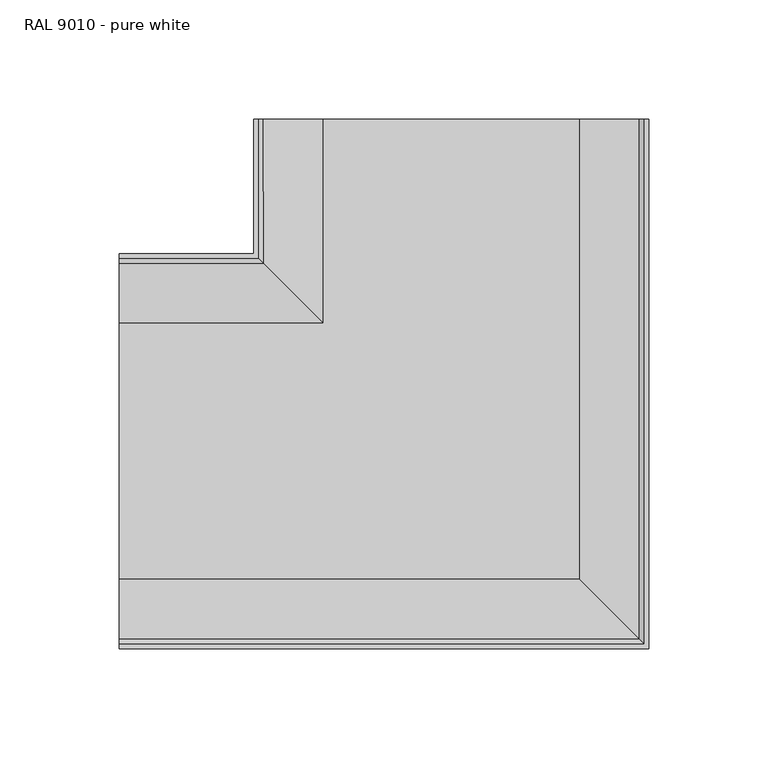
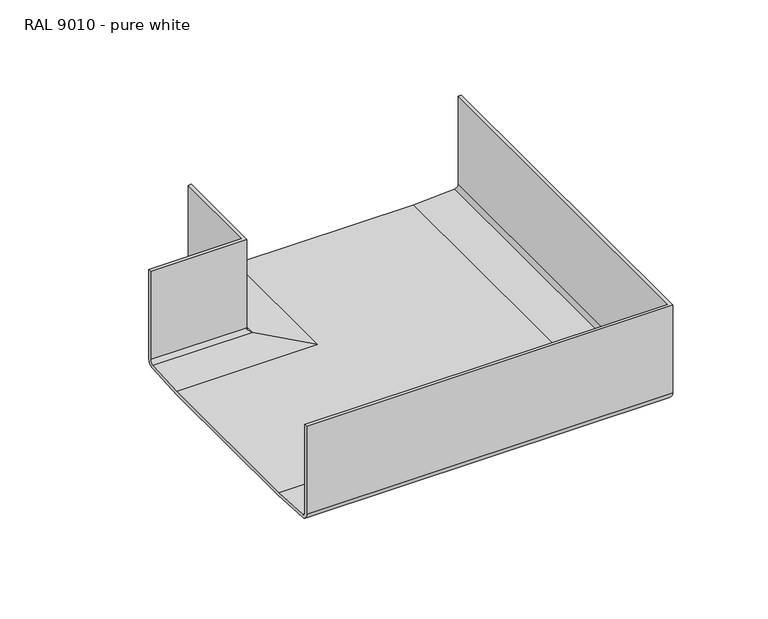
"""IFC4 building model written with IfcOpenShell, lengths in millimetres: cable carrier fitting geometry, Electrical_Installations_Hager_GBD-Flat-Corner-Vertical-Inside-And-Outside-Bend-Flat : RAL 9010 - pure white."""

from ifc_helpers import new_model, si_unit, frame, origin, place, context, project, spatial, polyline, circle_curve, ellipse_curve, source, transform, mapped, element, save
from ifc_brep_helpers import plane_surface, cylinder_surface, revolved_surface, advanced_brep


def ral_9010_pure_white_de79a6d9(model_context):
    return source(origin(), model_context, "Body", "AdvancedBrep", [
        advanced_brep(
        [(-139.5, 52.8133024, -34.957916), (-139.5, -52.8629789, -34.957916), (-139.5, -78.9370768, -33.406396), (-139.5, -83.0248383, -29.0681648), (-139.5, -83.0248383, 27.521231), (-139.5, -81.0727353, 27.521231), (-139.5, -81.0727353, -29.0681648), (-139.5, -78.9329395, -31.4049977), (-139.5, -53.8540421, -32.926666), (-139.5, 53.8043655, -32.926666), (-139.5, 78.819149, -31.4097682), (-139.5, 81.0139434, -29.0681648), (-139.5, 81.0139434, 27.6254199), (-139.5, 82.9751617, 27.6254199), (-139.5, 82.9751617, -29.0681648), (-139.5, 79.011084, -33.3972636), (-52.8133024, 52.8133024, -34.957916), (-52.8133024, 139.5, -34.957916), (52.8629789, 139.5, -34.957916), (52.8629789, -52.8629789, -34.957916), (78.9370768, -78.9370768, -33.406396), (83.0248383, -83.0248383, -29.0681648), (83.0248383, -83.0248383, 27.521231), (83.0248383, 139.5, 27.521231), (81.0727353, 139.5, 27.521231), (81.0727353, -81.0727353, 27.521231), (81.0727353, -81.0727353, -29.0681648), (78.9329395, -78.9329395, -31.4049977), (53.8540421, -53.8540421, -32.926666), (53.8540421, 139.5, -32.926666), (-53.8043655, 139.5, -32.926666), (-53.8043655, 53.8043655, -32.926666), (-78.819149, 78.819149, -31.4097682), (-81.0139434, 81.0139434, -29.0681648), (-81.0139434, 81.0139434, 27.6254199), (-81.0139434, 139.5, 27.6254199), (-82.9751617, 139.5, 27.6254199), (-82.9751617, 82.9751617, 27.6254199), (-82.9751617, 82.9751617, -29.0681648), (-79.011084, 79.011084, -33.3972636), (-78.8874003, 139.5, -33.406396), (-82.9751617, 139.5, -29.0681648), (-81.0139434, 139.5, -29.0681648), (-78.8741476, 139.5, -31.4049977), (78.8688255, 139.5, -31.4097682), (81.0727353, 139.5, -29.0681648), (83.0248383, 139.5, -29.0681648), (79.0607605, 139.5, -33.3972636)],
        [
            (0, 1),
            (1, 2, circle_curve(frame((-139.5, -48.5707654, 257.0450878), z_axis=(-1.0, 0.0, 0.0), x_axis=(0.0, 0.0, 1.0)), 292.0345481)),
            (2, 3, circle_curve(frame((-139.5, -78.6789336, -29.0681648), z_axis=(-1.0, 0.0, 0.0), x_axis=(0.0, 0.0, 1.0)), 4.3459047)),
            (3, 4),
            (4, 5),
            (5, 6),
            (6, 7, circle_curve(frame((-139.5, -78.7268306, -29.0681648), z_axis=(1.0, 0.0, 0.0), x_axis=(0.0, 0.0, 1.0)), 2.3459047)),
            (7, 8, circle_curve(frame((-139.5, -49.3389631, 248.5451055), z_axis=(1.0, 0.0, 0.0), x_axis=(0.0, 0.0, 1.0)), 281.5079822)),
            (8, 9),
            (9, 10, circle_curve(frame((-139.5, 49.2892866, 248.5451055), z_axis=(1.0, 0.0, 0.0), x_axis=(0.0, 0.0, 1.0)), 281.5079822)),
            (10, 11, circle_curve(frame((-139.5, 78.6680387, -29.0681648), z_axis=(1.0, 0.0, 0.0), x_axis=(0.0, 0.0, 1.0)), 2.3459047)),
            (11, 12),
            (12, 13),
            (13, 14),
            (14, 15, circle_curve(frame((-139.5, 78.629257, -29.0681648), z_axis=(-1.0, 0.0, 0.0), x_axis=(0.0, 0.0, 1.0)), 4.3459047)),
            (15, 0, circle_curve(frame((-139.5, 48.5210889, 257.0450878), z_axis=(-1.0, 0.0, 0.0), x_axis=(0.0, 0.0, 1.0)), 292.0345481)),
            (0, 16),
            (16, 17),
            (17, 18),
            (18, 19),
            (19, 1),
            (19, 20, ellipse_curve(frame((48.5707654, -48.5707654, 257.0450878), z_axis=(-0.7071067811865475, -0.7071067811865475, 0.0), x_axis=(-0.7071067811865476, 0.7071067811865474, 0.0)), 412.9992186, 292.0345481)),
            (20, 2),
            (20, 21, ellipse_curve(frame((78.6789336, -78.6789336, -29.0681648), z_axis=(-0.7071067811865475, -0.7071067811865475, 0.0), x_axis=(-0.7071067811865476, 0.7071067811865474, 0.0)), 6.1460374, 4.3459047)),
            (21, 3),
            (21, 22),
            (22, 4),
            (22, 23),
            (23, 24),
            (24, 25),
            (25, 5),
            (25, 26),
            (26, 6),
            (26, 27, ellipse_curve(frame((78.7268306, -78.7268306, -29.0681648), z_axis=(0.7071067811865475, 0.7071067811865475, 0.0), x_axis=(0.7071067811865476, -0.7071067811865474, 0.0)), 3.3176103, 2.3459047)),
            (27, 7),
            (27, 28, ellipse_curve(frame((49.3389631, -49.3389631, 248.5451055), z_axis=(0.7071067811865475, 0.7071067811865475, 0.0), x_axis=(0.7071067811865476, -0.7071067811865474, 0.0)), 398.1124064, 281.5079822)),
            (28, 8),
            (28, 29),
            (29, 30),
            (30, 31),
            (31, 9),
            (31, 32, ellipse_curve(frame((-49.2892866, 49.2892866, 248.5451055), z_axis=(0.7071067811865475, 0.7071067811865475, 0.0), x_axis=(0.7071067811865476, -0.7071067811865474, 0.0)), 398.1124064, 281.5079822)),
            (32, 10),
            (32, 33, ellipse_curve(frame((-78.6680387, 78.6680387, -29.0681648), z_axis=(0.7071067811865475, 0.7071067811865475, 0.0), x_axis=(0.7071067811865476, -0.7071067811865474, 0.0)), 3.3176103, 2.3459047)),
            (33, 11),
            (33, 34),
            (34, 12),
            (34, 35),
            (35, 36),
            (36, 37),
            (37, 13),
            (37, 38),
            (38, 14),
            (38, 39, ellipse_curve(frame((-78.629257, 78.629257, -29.0681648), z_axis=(-0.7071067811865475, -0.7071067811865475, 0.0), x_axis=(-0.7071067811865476, 0.7071067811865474, 0.0)), 6.1460374, 4.3459047)),
            (39, 15),
            (39, 16, ellipse_curve(frame((-48.5210889, 48.5210889, 257.0450878), z_axis=(-0.7071067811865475, -0.7071067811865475, 0.0), x_axis=(-0.7071067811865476, 0.7071067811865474, 0.0)), 412.9992186, 292.0345481)),
            (17, 40, circle_curve(frame((-48.5210889, 139.5, 257.0450878), z_axis=(0.0, 1.0, 0.0), x_axis=(0.0, 0.0, 1.0)), 292.0345481)),
            (40, 41, circle_curve(frame((-78.629257, 139.5, -29.0681648), z_axis=(0.0, 1.0, 0.0), x_axis=(0.0, 0.0, 1.0)), 4.3459047)),
            (41, 36),
            (35, 42),
            (42, 43, circle_curve(frame((-78.6680387, 139.5, -29.0681648), z_axis=(0.0, -1.0, 0.0), x_axis=(0.0, 0.0, 1.0)), 2.3459047)),
            (43, 30, circle_curve(frame((-49.2892866, 139.5, 248.5451055), z_axis=(0.0, -1.0, 0.0), x_axis=(0.0, 0.0, 1.0)), 281.5079822)),
            (29, 44, circle_curve(frame((49.3389631, 139.5, 248.5451055), z_axis=(0.0, -1.0, 0.0), x_axis=(0.0, 0.0, 1.0)), 281.5079822)),
            (44, 45, circle_curve(frame((78.7268306, 139.5, -29.0681648), z_axis=(0.0, -1.0, 0.0), x_axis=(0.0, 0.0, 1.0)), 2.3459047)),
            (45, 24),
            (23, 46),
            (46, 47, circle_curve(frame((78.6789336, 139.5, -29.0681648), z_axis=(0.0, 1.0, 0.0), x_axis=(0.0, 0.0, 1.0)), 4.3459047)),
            (47, 18, circle_curve(frame((48.5707654, 139.5, 257.0450878), z_axis=(0.0, 1.0, 0.0), x_axis=(0.0, 0.0, 1.0)), 292.0345481)),
            (47, 20),
            (46, 21),
            (45, 26),
            (44, 27),
            (43, 32),
            (42, 33),
            (41, 38),
            (40, 39),
        ],
        [
            plane_surface(frame((-139.5, 0.0, 0.0), z_axis=(-1.0, 0.0, 0.0), x_axis=(0.0, 0.0, 1.0))),
            plane_surface(frame((-139.5, 52.8133024, -34.957916), z_axis=(0.0, 0.0, -1.0), x_axis=(1.0, 0.0, 0.0))),
            cylinder_surface(frame((-139.5, -48.5707654, 257.0450878), z_axis=(-1.0, 0.0, 0.0), x_axis=(0.0, 0.0, 1.0)), 292.0345481),
            cylinder_surface(frame((-139.5, -78.6789336, -29.0681648), z_axis=(-1.0, 0.0, 0.0), x_axis=(0.0, 0.0, 1.0)), 4.3459047),
            plane_surface(frame((-139.5, -83.0248383, -29.0681648), z_axis=(0.0, -1.0, 0.0), x_axis=(1.0, 0.0, 0.0))),
            plane_surface(frame((-139.5, -83.0248383, 27.521231), z_axis=(0.0, 0.0, 1.0), x_axis=(1.0, 0.0, 0.0))),
            plane_surface(frame((-139.5, -81.0727353, 27.521231), z_axis=(0.0, 1.0, 0.0), x_axis=(1.0, 0.0, 0.0))),
            revolved_surface(polyline([(81.07273534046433, -78.7268306, -26.7222601), (-139.5, -78.7268306, -26.7222601)]), (-139.5, -78.7268306, -29.0681648), (1.0, 0.0, 0.0)),
            revolved_surface(polyline([(330.8469453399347, -49.3389631, 530.0530877), (-232.16901913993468, -49.3389631, 530.0530877)]), (-139.5, -49.3389631, 248.5451055), (1.0, 0.0, 0.0)),
            plane_surface(frame((-139.5, -53.8540421, -32.926666), z_axis=(0.0, 0.0, 1.0), x_axis=(1.0, 0.0, 0.0))),
            revolved_surface(polyline([(232.2186956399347, 49.2892866, 530.0530877), (-330.79726883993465, 49.2892866, 530.0530877)]), (-139.5, 49.2892866, 248.5451055), (1.0, 0.0, 0.0)),
            revolved_surface(polyline([(-76.32213395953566, 78.6680387, -26.7222601), (-139.5, 78.6680387, -26.7222601)]), (-139.5, 78.6680387, -29.0681648), (1.0, 0.0, 0.0)),
            plane_surface(frame((-139.5, 81.0139434, -29.0681648), z_axis=(0.0, -1.0, 0.0), x_axis=(1.0, 0.0, 0.0))),
            plane_surface(frame((-139.5, 81.0139434, 27.6254199), z_axis=(0.0, 0.0, 1.0), x_axis=(1.0, 0.0, 0.0))),
            plane_surface(frame((-139.5, 82.9751617, 27.6254199), z_axis=(0.0, 1.0, 0.0), x_axis=(1.0, 0.0, 0.0))),
            cylinder_surface(frame((-139.5, 78.629257, -29.0681648), z_axis=(-1.0, 0.0, 0.0), x_axis=(0.0, 0.0, 1.0)), 4.3459047),
            cylinder_surface(frame((-139.5, 48.5210889, 257.0450878), z_axis=(-1.0, 0.0, 0.0), x_axis=(0.0, 0.0, 1.0)), 292.0345481),
            plane_surface(frame((0.0, 139.5, 0.0), z_axis=(0.0, 1.0, 0.0), x_axis=(0.0, 0.0, 1.0))),
            cylinder_surface(frame((48.5707654, 0.0, 257.0450878), z_axis=(0.0, -1.0, 0.0), x_axis=(0.0, 0.0, 1.0)), 292.0345481),
            cylinder_surface(frame((78.6789336, 0.0, -29.0681648), z_axis=(0.0, -1.0, 0.0), x_axis=(0.0, 0.0, 1.0)), 4.3459047),
            plane_surface(frame((83.0248383, -83.0248383, -29.0681648), z_axis=(1.0, 0.0, 0.0), x_axis=(0.0, 1.0, 0.0))),
            plane_surface(frame((81.0727353, -81.0727353, 27.521231), z_axis=(-1.0, 0.0, 0.0), x_axis=(0.0, 1.0, 0.0))),
            revolved_surface(polyline([(78.7268306, 139.5, -26.7222601), (78.7268306, -81.07273534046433, -26.7222601)]), (78.7268306, 0.0, -29.0681648), (0.0, 1.0, 0.0)),
            revolved_surface(polyline([(49.3389631, 232.16901913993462, 530.0530877), (49.3389631, -330.8469453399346, 530.0530877)]), (49.3389631, 0.0, 248.5451055), (0.0, 1.0, 0.0)),
            revolved_surface(polyline([(-49.2892866, 330.79726883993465, 530.0530877), (-49.2892866, -232.21869563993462, 530.0530877)]), (-49.2892866, 0.0, 248.5451055), (0.0, 1.0, 0.0)),
            revolved_surface(polyline([(-78.6680387, 139.5, -26.7222601), (-78.6680387, 76.32213395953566, -26.7222601)]), (-78.6680387, 0.0, -29.0681648), (0.0, 1.0, 0.0)),
            plane_surface(frame((-81.0139434, 81.0139434, -29.0681648), z_axis=(1.0, 0.0, 0.0), x_axis=(0.0, 1.0, 0.0))),
            plane_surface(frame((-82.9751617, 82.9751617, 27.6254199), z_axis=(-1.0, 0.0, 0.0), x_axis=(0.0, 1.0, 0.0))),
            cylinder_surface(frame((-78.629257, 0.0, -29.0681648), z_axis=(0.0, -1.0, 0.0), x_axis=(0.0, 0.0, 1.0)), 4.3459047),
            cylinder_surface(frame((-48.5210889, 0.0, 257.0450878), z_axis=(0.0, -1.0, 0.0), x_axis=(0.0, 0.0, 1.0)), 292.0345481),
        ],
        [
            (0, [[1, 2, 3, 4, 5, 6, 7, 8, 9, 10, 11, 12, 13, 14, 15, 16]]),
            (1, [[-1, 17, 18, 19, 20, 21]]),
            (2, [[-2, -21, 22, 23]]),
            (3, [[-3, -23, 24, 25]]),
            (4, [[-4, -25, 26, 27]]),
            (5, [[-5, -27, 28, 29, 30, 31]]),
            (6, [[-6, -31, 32, 33]]),
            (7, [[-7, -33, 34, 35]]),
            (8, [[-8, -35, 36, 37]]),
            (9, [[-9, -37, 38, 39, 40, 41]]),
            (10, [[-10, -41, 42, 43]]),
            (11, [[-11, -43, 44, 45]]),
            (12, [[-12, -45, 46, 47]]),
            (13, [[-13, -47, 48, 49, 50, 51]]),
            (14, [[-14, -51, 52, 53]]),
            (15, [[-15, -53, 54, 55]]),
            (16, [[-16, -55, 56, -17]]),
            (17, [[57, 58, 59, -49, 60, 61, 62, -39, 63, 64, 65, -29, 66, 67, 68, -19]]),
            (18, [[-22, -20, -68, 69]]),
            (19, [[-24, -69, -67, 70]]),
            (20, [[-26, -70, -66, -28]]),
            (21, [[-32, -30, -65, 71]]),
            (22, [[-34, -71, -64, 72]]),
            (23, [[-36, -72, -63, -38]]),
            (24, [[-42, -40, -62, 73]]),
            (25, [[-44, -73, -61, 74]]),
            (26, [[-46, -74, -60, -48]]),
            (27, [[-52, -50, -59, 75]]),
            (28, [[-54, -75, -58, 76]]),
            (29, [[-56, -76, -57, -18]]),
        ],
    ),
    ])


if __name__ == "__main__":
    model = new_model("IFC4")
    model_context = context("Model", 3, world=origin())
    ifc_project = project(units=[si_unit("LENGTHUNIT", "METRE", prefix="MILLI")], contexts=[model_context])
    site = spatial("IfcSite", under=ifc_project)
    building = spatial("IfcBuilding", under=site)
    placement = place(None, origin())
    ral_9010_pure_white_shape = ral_9010_pure_white_de79a6d9(model_context)
    element("IfcCableCarrierFitting", 1, ObjectType="Electrical_Installations_Hager_GBD-Flat-Corner-Vertical-Inside-And-Outside-Bend-Flat : RAL 9010 - pure white", at=placement, inside=building, context=model_context, shape_type="MappedRepresentation", body=[
        mapped(ral_9010_pure_white_shape, transform((0.0, 0.0, 0.0), x_axis=(1.0, 0.0, 0.0), y_axis=(0.0, 1.0, 0.0), z_axis=(0.0, 0.0, 1.0))),
    ])
    save(model, "model.ifc")
